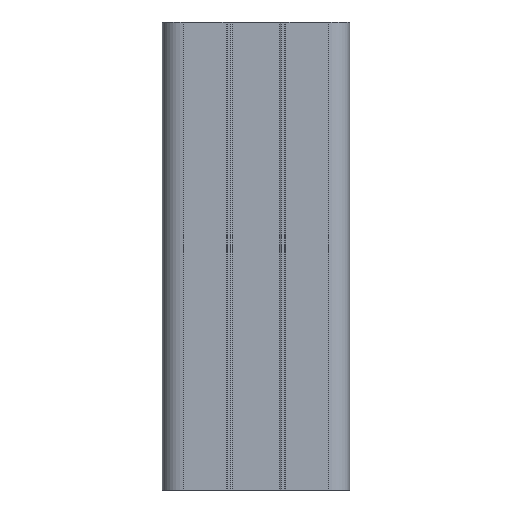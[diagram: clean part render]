
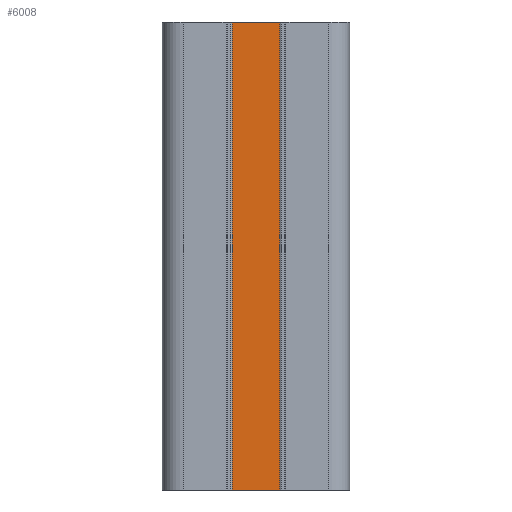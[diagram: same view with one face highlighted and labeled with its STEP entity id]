
A CAD part, left-side view. The second image highlights one B-rep face of the part: STEP entity #6008.
In plain terms, the highlighted planar face has unit normal (-1, 0, 0).
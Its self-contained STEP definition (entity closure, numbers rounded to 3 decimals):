
#1543=CARTESIAN_POINT('',(12.4,26.186,100.0));
#1544=VERTEX_POINT('',#1543);
#1551=CARTESIAN_POINT('',(12.4,13.814,100.0));
#1552=VERTEX_POINT('',#1551);
#1553=CARTESIAN_POINT('',(12.4,13.814,100.0));
#1554=DIRECTION('',(0.0,1.0,0.0));
#1555=VECTOR('',#1554,12.372);
#1556=LINE('',#1553,#1555);
#1557=EDGE_CURVE('',#1552,#1544,#1556,.T.);
#2381=CARTESIAN_POINT('',(12.4,13.814,0.0));
#2382=VERTEX_POINT('',#2381);
#2389=CARTESIAN_POINT('',(12.4,26.186,0.0));
#2390=VERTEX_POINT('',#2389);
#2391=CARTESIAN_POINT('',(12.4,13.814,0.0));
#2392=DIRECTION('',(0.0,1.0,0.0));
#2393=VECTOR('',#2392,12.372);
#2394=LINE('',#2391,#2393);
#2395=EDGE_CURVE('',#2382,#2390,#2394,.T.);
#5981=CARTESIAN_POINT('',(12.4,13.814,0.0));
#5982=DIRECTION('',(0.0,0.0,1.0));
#5983=VECTOR('',#5982,100.0);
#5984=LINE('',#5981,#5983);
#5985=EDGE_CURVE('',#2382,#1552,#5984,.T.);
#5992=CARTESIAN_POINT('',(12.4,13.814,0.0));
#5993=DIRECTION('',(-1.0,0.0,0.0));
#5994=DIRECTION('',(0.0,0.0,1.0));
#5995=AXIS2_PLACEMENT_3D('',#5992,#5993,#5994);
#5996=PLANE('',#5995);
#5997=ORIENTED_EDGE('',*,*,#1557,.T.);
#5998=CARTESIAN_POINT('',(12.4,26.186,0.0));
#5999=DIRECTION('',(0.0,0.0,1.0));
#6000=VECTOR('',#5999,100.0);
#6001=LINE('',#5998,#6000);
#6002=EDGE_CURVE('',#2390,#1544,#6001,.T.);
#6003=ORIENTED_EDGE('',*,*,#6002,.F.);
#6004=ORIENTED_EDGE('',*,*,#2395,.F.);
#6005=ORIENTED_EDGE('',*,*,#5985,.T.);
#6006=EDGE_LOOP('',(#5997,#6003,#6004,#6005));
#6007=FACE_OUTER_BOUND('',#6006,.T.);
#6008=ADVANCED_FACE('',(#6007),#5996,.T.);
